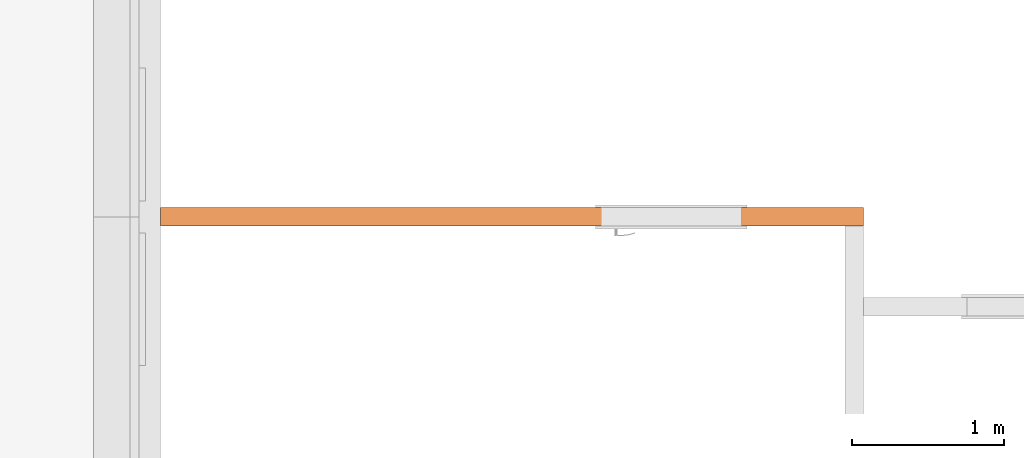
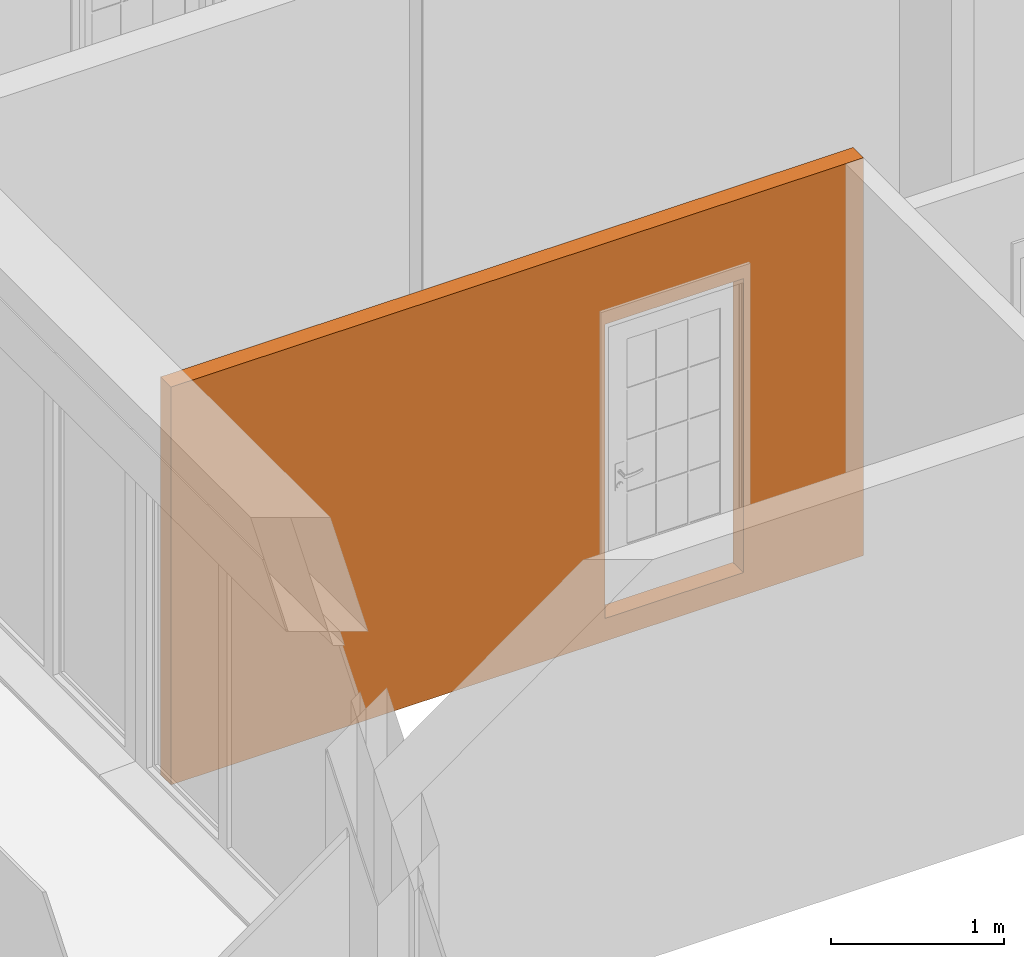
# One storey, part 40 of 66: 1 proxy, 1 opening.
"""IFC2X3 building model written with IfcOpenShell, lengths in millimetres."""

from ifc_helpers import new_model, entity, si_unit, converted_unit, derived_unit, money_unit, direction, frame, origin_with_axes, origin_2d_with_axis, place, context, subcontext, project, spatial, rectangle, extrude, faceted_brep, material, type_object, element, save


model = new_model("IFC2X3")

# Units and contexts
model_context = context("Model", 3, precision=0.01, world=origin_with_axes(), true_north=direction((0.34421633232, 0.938890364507)))
body_context = subcontext(model_context, "Body", "Model", "MODEL_VIEW")
ifc_project = project(units=[si_unit("LENGTHUNIT", "METRE", prefix="MILLI"), si_unit("AREAUNIT", "SQUARE_METRE"), si_unit("VOLUMEUNIT", "CUBIC_METRE"), converted_unit("PLANEANGLEUNIT", "DEGREE", entity("IfcPlaneAngleMeasure", 0.0174532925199), si_unit("PLANEANGLEUNIT", "RADIAN"), dimensions=[0, 0, 0, 0, 0, 0, 0]), si_unit("SOLIDANGLEUNIT", "STERADIAN"), money_unit("USD"), converted_unit("TIMEUNIT", "Year", entity("IfcTimeMeasure", 31556926.0), si_unit("TIMEUNIT", "SECOND"), dimensions=[0, 0, 1, 0, 0, 0, 0]), si_unit("MASSUNIT", "GRAM", prefix="KILO"), si_unit("THERMODYNAMICTEMPERATUREUNIT", "DEGREE_CELSIUS"), si_unit("LUMINOUSINTENSITYUNIT", "LUMEN"), si_unit("ENERGYUNIT", "JOULE", prefix="MEGA"), derived_unit("THERMALCONDUCTANCEUNIT", [(si_unit("POWERUNIT", "WATT"), 1), (si_unit("LENGTHUNIT", "METRE"), -1), (si_unit("THERMODYNAMICTEMPERATUREUNIT", "KELVIN"), -1)]), derived_unit("SPECIFICHEATCAPACITYUNIT", [(si_unit("ENERGYUNIT", "JOULE"), 1), (si_unit("MASSUNIT", "GRAM", prefix="KILO"), -1), (si_unit("THERMODYNAMICTEMPERATUREUNIT", "KELVIN"), -1)]), derived_unit("MASSDENSITYUNIT", [(si_unit("MASSUNIT", "GRAM", prefix="KILO"), 1), (si_unit("VOLUMEUNIT", "CUBIC_METRE"), -1)])], contexts=[model_context])

# Site, building, storey
site_placement = place(None, origin_with_axes())
site = spatial("IfcSite", under=ifc_project, at=site_placement, Name="USTRONIE MORSKIE", CompositionType="ELEMENT")
building_placement = place(site_placement, origin_with_axes())
building = spatial("IfcBuilding", under=site, at=building_placement, Name="Budynek", CompositionType="ELEMENT")
storey_placement = place(building_placement, frame((0.0, 0.0, 10000.0), z_axis=(0.0, 0.0, 1.0), x_axis=(1.0, 0.0, 0.0)))
storey = spatial("IfcBuildingStorey", under=building, at=storey_placement, Name="PIĘTRO 3", CompositionType="ELEMENT", Elevation=10000.0)

# Proxy, opening
ifc_material = material(Name="Bloczki silikatowe")
building_element_proxy_type = type_object("IfcBuildingElementProxyType", Name="Bloczki silikatowe 120", PredefinedType="NOTDEFINED")
proxy_placement = place(storey_placement, frame((413217.920919, 717951.218387, -160.0), z_axis=(0.0, 0.0, 1.0), x_axis=(-1.0, 0.0, 0.0)))
proxy = element("IfcBuildingElementProxy", 1, at=proxy_placement, inside=storey, type_object=building_element_proxy_type, material=ifc_material, Name="SW-04", context=body_context, shape_type="Brep", body=[
    faceted_brep([(4550.01817519, -59.9999999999, 2800.0), (4550.01842331, 59.9999999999, 2800.0), (-60.0, 59.9999999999, 2800.0), (-60.0, -59.9999999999, 2800.0), (4550.01817519, -59.9999999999, 0.0), (4550.01842331, 59.9999999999, 0.0), (-60.0, 59.9999999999, 0.0), (-60.0, -59.9999999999, 0.0)], [[[0, 1, 2, 3]], [[1, 0, 4, 5]], [[1, 5, 6, 2]], [[7, 3, 2, 6]], [[4, 0, 3, 7]], [[5, 4, 7, 6]]]),
])
opening_placement = place(proxy_placement, frame((1200.0, 0.0, 160.0), z_axis=(0.0, 0.0, 1.0), x_axis=(1.0, 0.0, 0.0)))
element("IfcOpeningElement", 2, at=opening_placement, cuts=proxy, Name="Dw.3", context=body_context, shape_type="SweptSolid", body=[
    extrude(rectangle(XDim=920.0, YDim=2070.0, at=origin_2d_with_axis()), frame((0.0, 120.0, 1035.0), z_axis=(0.0, 1.0, 0.0), x_axis=(-1.0, 0.0, 0.0)), (0.0, 0.0, -1.0), 360.0),
    extrude(rectangle(XDim=994.0, YDim=2177.0, at=origin_2d_with_axis()), frame((0.0, 60.0000000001, 1088.5), z_axis=(0.0, 1.0, 0.0), x_axis=(-1.0, 0.0, 0.0)), (0.0, 0.0, 1.0), 120.0),
    extrude(rectangle(XDim=994.0, YDim=2177.0, at=origin_2d_with_axis()), frame((0.0, -59.9999999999, 1088.5), z_axis=(0.0, -1.0, 0.0), x_axis=(-1.0, 0.0, 0.0)), (0.0, 0.0, 1.0), 120.0),
])

save(model, "model.ifc")
